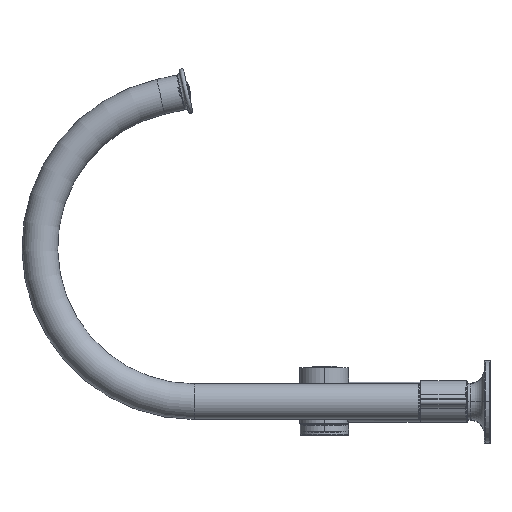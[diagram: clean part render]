
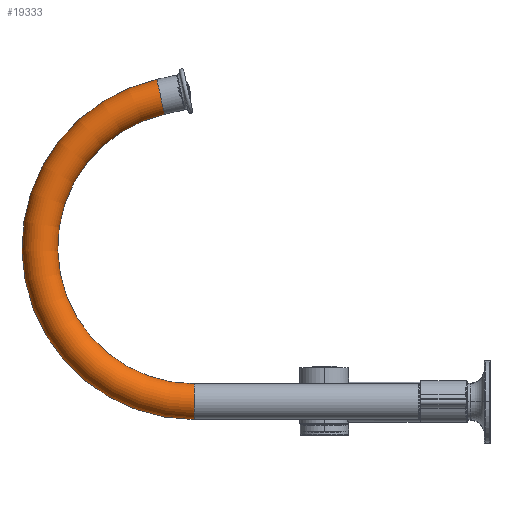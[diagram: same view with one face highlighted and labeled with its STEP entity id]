
A CAD part, left-side view. The second image highlights one B-rep face of the part: STEP entity #19333.
In plain terms, the highlighted toroidal (fillet/blend) face has major radius 108 mm and minor radius 12.5 mm.
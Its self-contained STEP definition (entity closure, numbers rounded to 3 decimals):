
#10207=CARTESIAN_POINT('',(150.,359.775,213.44));
#10208=DIRECTION('',(0.,-0.976,0.216));
#10209=DIRECTION('',(0.,0.216,0.976));
#10210=AXIS2_PLACEMENT_3D('',#10207,#10208,#10209);
#10216=CARTESIAN_POINT('',(150.,336.4,0.));
#10217=DIRECTION('',(0.,1.,0.));
#10218=DIRECTION('',(0.,0.,-1.));
#10219=AXIS2_PLACEMENT_3D('',#10216,#10217,#10218);
#10221=CARTESIAN_POINT('',(150.,336.4,108.));
#10222=DIRECTION('',(1.,0.,0.));
#10223=DIRECTION('',(0.,0.,-1.));
#10224=AXIS2_PLACEMENT_3D('',#10221,#10222,#10223);
#10259=CARTESIAN_POINT('',(150.,336.4,108.));
#10260=DIRECTION('',(1.,0.,0.));
#10261=DIRECTION('',(0.,0.,-1.));
#10262=AXIS2_PLACEMENT_3D('',#10259,#10260,#10261);
#13706=CARTESIAN_POINT('',(150.,336.4,-12.5));
#13707=CARTESIAN_POINT('',(150.,336.4,12.5));
#13708=VERTEX_POINT('',#13706);
#13709=VERTEX_POINT('',#13707);
#13710=CARTESIAN_POINT('',(150.,362.481,225.644));
#13711=CARTESIAN_POINT('',(150.,357.07,201.236));
#13712=VERTEX_POINT('',#13710);
#13713=VERTEX_POINT('',#13711);
#19319=CARTESIAN_POINT('',(150.,336.4,108.));
#19320=DIRECTION('',(1.,0.,0.));
#19321=DIRECTION('',(0.,0.,1.));
#19322=AXIS2_PLACEMENT_3D('',#19319,#19320,#19321);
#19323=TOROIDAL_SURFACE('',#19322,108.,12.5);
#19325=ORIENTED_EDGE('',*,*,#19324,.F.);
#19327=ORIENTED_EDGE('',*,*,#19326,.T.);
#19328=ORIENTED_EDGE('',*,*,#19306,.T.);
#19330=ORIENTED_EDGE('',*,*,#19329,.F.);
#19331=EDGE_LOOP('',(#19325,#19327,#19328,#19330));
#19332=FACE_OUTER_BOUND('',#19331,.F.);
#10211=CIRCLE('',#10210,12.5);
#10220=CIRCLE('',#10219,12.5);
#10225=CIRCLE('',#10224,120.5);
#10263=CIRCLE('',#10262,95.5);
#19306=EDGE_CURVE('',#13712,#13713,#10211,.T.);
#19324=EDGE_CURVE('',#13708,#13709,#10220,.T.);
#19326=EDGE_CURVE('',#13708,#13712,#10225,.T.);
#19329=EDGE_CURVE('',#13709,#13713,#10263,.T.);
#19333=ADVANCED_FACE('',(#19332),#19323,.T.);
